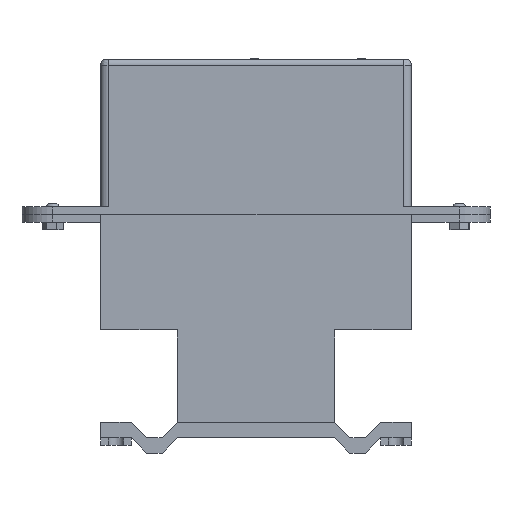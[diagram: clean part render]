
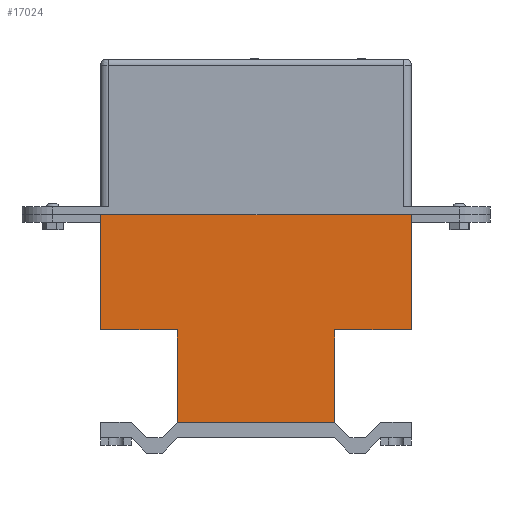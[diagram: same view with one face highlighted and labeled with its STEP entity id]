
A CAD part, left-side view. The second image highlights one B-rep face of the part: STEP entity #17024.
In plain terms, the highlighted planar face has unit normal (-1, 0, 0).
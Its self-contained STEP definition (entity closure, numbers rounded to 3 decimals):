
#1292=PLANE('',#17927);
#2699=LINE('',#30090,#4471);
#2709=LINE('',#30109,#4481);
#2710=LINE('',#30112,#4482);
#2711=LINE('',#30114,#4483);
#2712=LINE('',#30116,#4484);
#2713=LINE('',#30118,#4485);
#2714=LINE('',#30120,#4486);
#2715=LINE('',#30121,#4487);
#4471=VECTOR('',#20714,10.);
#4481=VECTOR('',#20728,10.);
#4482=VECTOR('',#20731,10.);
#4483=VECTOR('',#20732,10.);
#4484=VECTOR('',#20733,10.);
#4485=VECTOR('',#20734,10.);
#4486=VECTOR('',#20735,10.);
#4487=VECTOR('',#20736,10.);
#5840=FACE_OUTER_BOUND('',#6816,.T.);
#6816=EDGE_LOOP('',(#15057,#15058,#15059,#15060,#15061,#15062,#15063,#15064));
#8479=VERTEX_POINT('',#30087);
#8480=VERTEX_POINT('',#30089);
#8487=VERTEX_POINT('',#30107);
#8488=VERTEX_POINT('',#30111);
#8489=VERTEX_POINT('',#30113);
#8490=VERTEX_POINT('',#30115);
#8491=VERTEX_POINT('',#30117);
#8492=VERTEX_POINT('',#30119);
#10735=EDGE_CURVE('',#8479,#8480,#2699,.T.);
#10745=EDGE_CURVE('',#8479,#8487,#2709,.T.);
#10746=EDGE_CURVE('',#8487,#8488,#2710,.T.);
#10747=EDGE_CURVE('',#8489,#8488,#2711,.T.);
#10748=EDGE_CURVE('',#8489,#8490,#2712,.T.);
#10749=EDGE_CURVE('',#8490,#8491,#2713,.T.);
#10750=EDGE_CURVE('',#8491,#8492,#2714,.T.);
#10751=EDGE_CURVE('',#8492,#8480,#2715,.T.);
#15057=ORIENTED_EDGE('',*,*,#10735,.F.);
#15058=ORIENTED_EDGE('',*,*,#10745,.T.);
#15059=ORIENTED_EDGE('',*,*,#10746,.T.);
#15060=ORIENTED_EDGE('',*,*,#10747,.F.);
#15061=ORIENTED_EDGE('',*,*,#10748,.T.);
#15062=ORIENTED_EDGE('',*,*,#10749,.T.);
#15063=ORIENTED_EDGE('',*,*,#10750,.T.);
#15064=ORIENTED_EDGE('',*,*,#10751,.T.);
#17024=ADVANCED_FACE('',(#5840),#1292,.T.);
#17927=AXIS2_PLACEMENT_3D('',#30110,#20729,#20730);
#20714=DIRECTION('',(0.,1.,0.));
#20728=DIRECTION('',(0.,0.,1.));
#20729=DIRECTION('center_axis',(-1.,0.,0.));
#20730=DIRECTION('ref_axis',(0.,1.,0.));
#20731=DIRECTION('',(0.,-1.,0.));
#20732=DIRECTION('',(0.,0.,-1.));
#20733=DIRECTION('',(0.,1.,0.));
#20734=DIRECTION('',(0.,0.,-1.));
#20735=DIRECTION('',(0.,-1.,0.));
#20736=DIRECTION('',(0.,0.,-1.));
#30087=CARTESIAN_POINT('',(-10.,50.,-135.));
#30089=CARTESIAN_POINT('',(-10.,152.,-135.));
#30090=CARTESIAN_POINT('',(-10.,0.,-135.));
#30107=CARTESIAN_POINT('',(-10.,50.,-75.));
#30109=CARTESIAN_POINT('',(-10.,50.,-67.5));
#30110=CARTESIAN_POINT('Origin',(-10.,0.,0.));
#30111=CARTESIAN_POINT('',(-10.,0.,-75.));
#30112=CARTESIAN_POINT('',(-10.,25.,-75.));
#30113=CARTESIAN_POINT('',(-10.,0.,0.));
#30114=CARTESIAN_POINT('',(-10.,0.,0.));
#30115=CARTESIAN_POINT('',(-10.,202.,0.));
#30116=CARTESIAN_POINT('',(-10.,0.,0.));
#30117=CARTESIAN_POINT('',(-10.,202.,-75.));
#30118=CARTESIAN_POINT('',(-10.,202.,0.));
#30119=CARTESIAN_POINT('',(-10.,152.,-75.));
#30120=CARTESIAN_POINT('',(-10.,101.,-75.));
#30121=CARTESIAN_POINT('',(-10.,152.,-37.5));
